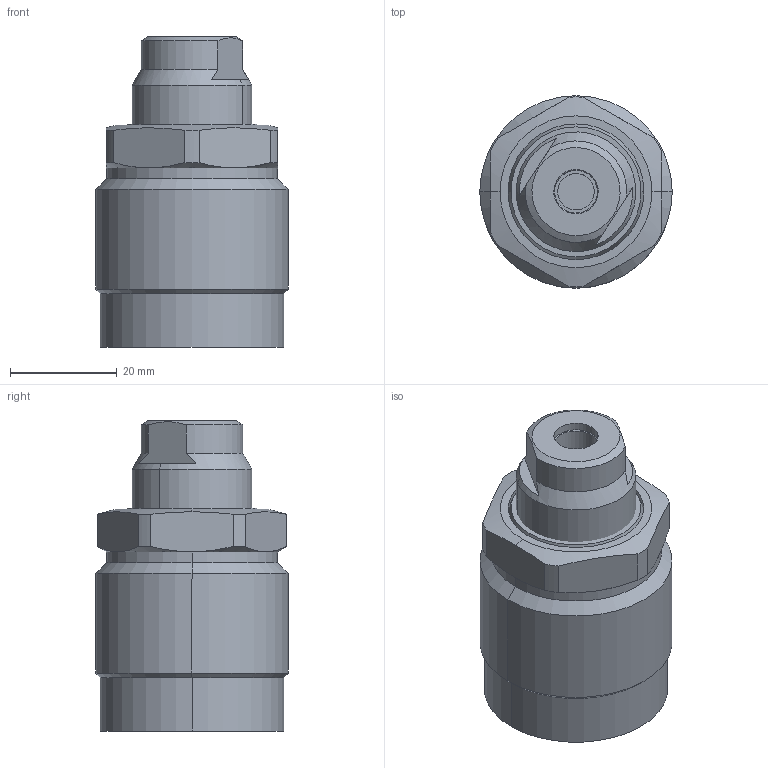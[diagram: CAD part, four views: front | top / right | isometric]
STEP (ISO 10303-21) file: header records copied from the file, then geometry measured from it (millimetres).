
FILE_DESCRIPTION (( 'STEP AP203' ), '1' );
FILE_NAME ('650361-AS.step', '2016-11-02T03:14:25', ( 'wxp' ), ( '' ), 'SwSTEP 2.0', 'SolidWorks 2011', '' );
FILE_SCHEMA (( 'CONFIG_CONTROL_DESIGN' ));
Length unit declared in the file: millimetre
Products named in the file (3): 650361-AS; 葩璃 650361-AS.sldasm-Part-2^650361-AS; 葩璃 650361-AS.sldasm-Part-1^650361-AS
Assembly tree (2 placements, depth 2):
  650361-AS
    葩璃 650361-AS.sldasm-Part-1^650361-AS
    葩璃 650361-AS.sldasm-Part-2^650361-AS
Bounding box: 36 x 36 x 58 mm (x, y, z)
Volume: 44660.2 mm3; surface area: 9462.5 mm2
Topology: 2 solids, 2 shells, 86 faces, 198 edges, 123 vertices
Faces by surface type: cylinder 34, plane 28, cone 18, torus 6
Entity records: 2841 total; most frequent: CARTESIAN_POINT 590, DIRECTION 438, ORIENTED_EDGE 392, EDGE_CURVE 196, AXIS2_PLACEMENT_3D 191, VERTEX_POINT 123, CIRCLE 100, EDGE_LOOP 95
